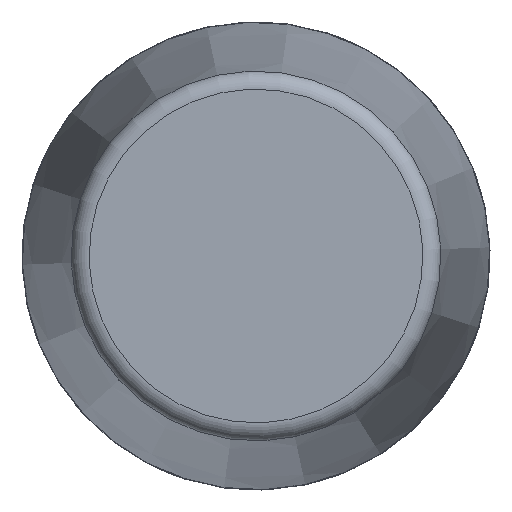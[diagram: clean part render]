
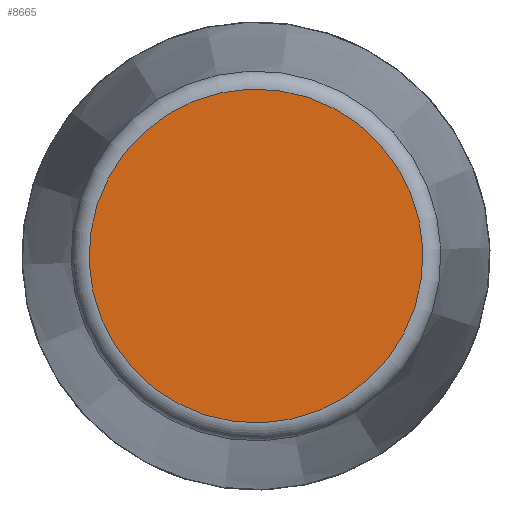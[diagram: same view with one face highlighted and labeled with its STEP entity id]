
A CAD part, front view. The second image highlights one B-rep face of the part: STEP entity #8665.
In plain terms, the highlighted planar face has unit normal (0, -1, 0) as drawn and (1, 0, 0) by its records, which use the part's own axes.
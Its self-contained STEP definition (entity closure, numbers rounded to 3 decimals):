
#2497=PLANE('',#9046);
#3056=FACE_OUTER_BOUND('',#3597,.T.);
#3597=EDGE_LOOP('',(#8169));
#3626=CIRCLE('',#9042,46.341);
#4464=VERTEX_POINT('',#15892);
#5702=EDGE_CURVE('',#4464,#4464,#3626,.T.);
#8169=ORIENTED_EDGE('',*,*,#5702,.F.);
#8665=ADVANCED_FACE('',(#3056),#2497,.T.);
#9042=AXIS2_PLACEMENT_3D('',#15893,#10469,#10470);
#9046=AXIS2_PLACEMENT_3D('',#15899,#10477,#10478);
#10469=DIRECTION('center_axis',(-1.,0.,0.));
#10470=DIRECTION('ref_axis',(0.,0.,
1.));
#10477=DIRECTION('center_axis',(1.,0.,0.));
#10478=DIRECTION('ref_axis',(0.,0.,-1.));
#15892=CARTESIAN_POINT('',(244.5,0.,-46.341));
#15893=CARTESIAN_POINT('Origin',(244.5,0.,0.));
#15899=CARTESIAN_POINT('Origin',(244.5,0.,0.));
